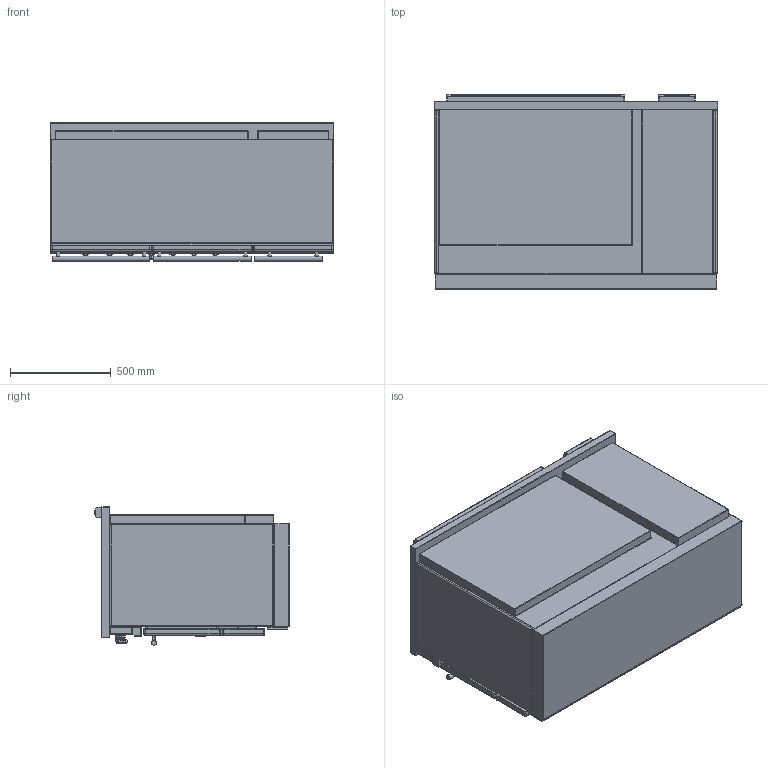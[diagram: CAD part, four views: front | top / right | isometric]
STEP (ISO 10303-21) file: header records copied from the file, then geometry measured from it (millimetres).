
FILE_DESCRIPTION((''),'2;1');
FILE_NAME('LMVTR1452G_ASM','2022-04-13T11:38:42',('stagiaire'),(''),'CREO PARAMETRIC BY PTC INC, 2021424','CREO PARAMETRIC BY PTC INC, 2021424','');
FILE_SCHEMA(('AP203_CONFIGURATION_CONTROLLED_3D_DESIGN_OF_MECHANICAL_PARTS_AND_ASSEMBLIES_MIM_LF { 1 0 10303 403 2 1 2 }'));
Products named in the file (13): BASE_EXPORT_CLUNY_1400G_MODERN; 65064012; 19150009; 88064012_ASM; 65049009; 65650001; BASE_EXPORT_CLUNY_1400G_MODERN_ASM; TABLE_1405G_VTR; 65052005; CHEMINEE_2020_LG182_EXPORT_STEP; CHEMINEE_2020_LG882_EXPORT_STEP; TABLE_1405G_VTR_ASM; LMVTR1452G_ASM
Assembly tree (18 placements, depth 4):
  LMVTR1452G_ASM
    BASE_EXPORT_CLUNY_1400G_MODERN_ASM
      BASE_EXPORT_CLUNY_1400G_MODERN
      88064012_ASM  x7
        65064012
        19150009
      65049009
      65650001
    TABLE_1405G_VTR_ASM
      TABLE_1405G_VTR
      65052005
      CHEMINEE_2020_LG182_EXPORT_STEP
      CHEMINEE_2020_LG882_EXPORT_STEP
Bounding box: 1405 x 963 x 687.75 mm (x, y, z)
Volume: 515666268.9 mm3; surface area: 12906247.5 mm2
Topology: 25 solids, 25 shells, 3001 faces, 8699 edges, 5531 vertices
Faces by surface type: cylinder 1204, plane 1185, sphere 260, bspline 236, torus 80, cone 34, extrusion 2
Entity records: 91016 total; most frequent: CARTESIAN_POINT 23322, ORIENTED_EDGE 12600, DIRECTION 12271, EDGE_CURVE 6300, VECTOR 4663, LINE 4661, VERTEX_POINT 4057, AXIS2_PLACEMENT_3D 3786
